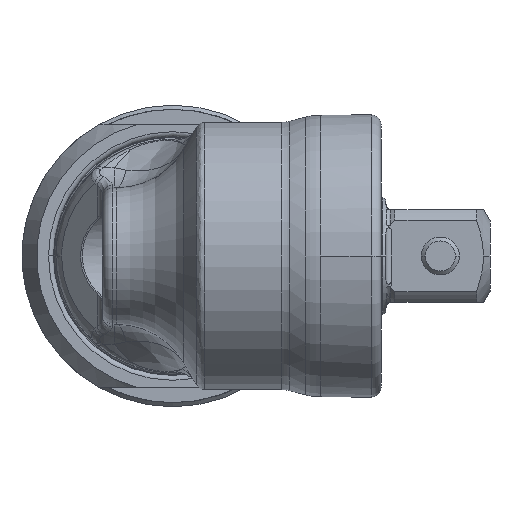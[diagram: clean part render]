
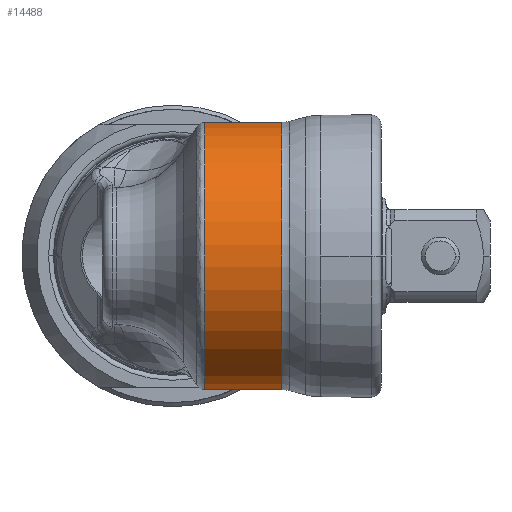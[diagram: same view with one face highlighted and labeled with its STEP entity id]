
A CAD part, left-side view. The second image highlights one B-rep face of the part: STEP entity #14488.
In plain terms, the highlighted cylindrical face has radius 13.75 mm (diameter 27.5 mm), a partial arc.
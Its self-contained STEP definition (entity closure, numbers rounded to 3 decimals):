
#4356=CARTESIAN_POINT('',(0.,-3.284,0.));
#4357=DIRECTION('',(0.,1.,0.));
#4358=DIRECTION('',(0.223,0.,-0.975));
#4359=AXIS2_PLACEMENT_3D('',#4356,#4357,#4358);
#4364=DIRECTION('',(0.,-1.,0.));
#4365=VECTOR('',#4364,7.922);
#4366=CARTESIAN_POINT('',(3.062,-3.284,13.405));
#4367=LINE('666',#4366,#4365);
#4371=CARTESIAN_POINT('',(0.,-11.206,0.));
#4372=DIRECTION('',(0.,1.,0.));
#4373=DIRECTION('',(0.223,0.,-0.975));
#4374=AXIS2_PLACEMENT_3D('',#4371,#4372,#4373);
#4379=DIRECTION('',(0.,-1.,0.));
#4380=VECTOR('',#4379,7.922);
#4381=CARTESIAN_POINT('',(3.062,-3.284,
-13.405));
#4382=LINE('667',#4381,#4380);
#9405=CARTESIAN_POINT('',(3.062,-11.206,
-13.405));
#9406=CARTESIAN_POINT('',(3.062,-11.206,13.405));
#9407=VERTEX_POINT('',#9405);
#9408=VERTEX_POINT('',#9406);
#9427=CARTESIAN_POINT('',(3.062,-3.284,
-13.405));
#9428=CARTESIAN_POINT('',(3.062,-3.284,13.405));
#9429=VERTEX_POINT('',#9427);
#9430=VERTEX_POINT('',#9428);
#14475=CARTESIAN_POINT('',(0.,8.63,0.));
#14476=DIRECTION('',(0.,-1.,0.));
#14477=DIRECTION('',(-1.,0.,0.));
#14478=AXIS2_PLACEMENT_3D('',#14475,#14476,#14477);
#14479=CYLINDRICAL_SURFACE('101',#14478,13.75);
#14480=ORIENTED_EDGE('652',*,*,#12216,.T.);
#14482=ORIENTED_EDGE('666',*,*,#14481,.T.);
#14483=ORIENTED_EDGE('621',*,*,#14459,.F.);
#14485=ORIENTED_EDGE('667',*,*,#14484,.F.);
#14486=EDGE_LOOP('101',(#14480,#14482,#14483,#14485));
#14487=FACE_OUTER_BOUND('101',#14486,.F.);
#4360=CIRCLE('652',#4359,13.75);
#4375=CIRCLE('621',#4374,13.75);
#12216=EDGE_CURVE('652',#9429,#9430,#4360,.T.);
#14459=EDGE_CURVE('621',#9407,#9408,#4375,.T.);
#14481=EDGE_CURVE('666',#9430,#9408,#4367,.T.);
#14484=EDGE_CURVE('667',#9429,#9407,#4382,.T.);
#14488=ADVANCED_FACE('101',(#14487),#14479,.T.);
